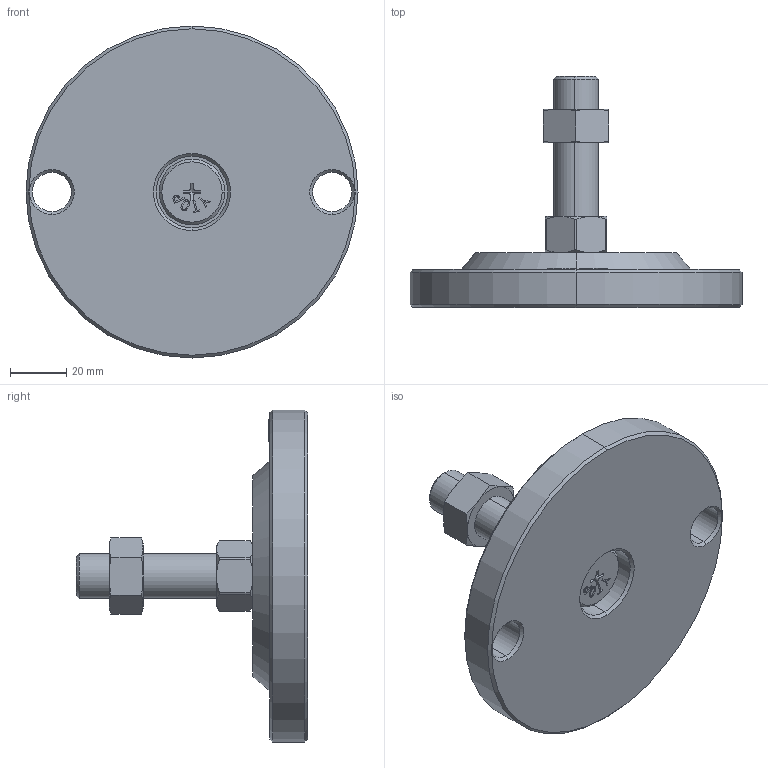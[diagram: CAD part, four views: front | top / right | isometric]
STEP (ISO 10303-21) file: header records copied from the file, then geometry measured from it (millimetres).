
FILE_DESCRIPTION (( 'STEP AP203' ), '1' );
FILE_NAME ('KL-120-1650-P.STEP', '2020-09-10T02:34:16', ( '' ), ( '' ), 'SwSTEP 2.0', 'SolidWorks 2016', '' );
FILE_SCHEMA (( 'CONFIG_CONTROL_DESIGN' ));
Length unit declared in the file: millimetre
Products named in the file (5): KL-120-0.1 KL120菁釱; KL-120-1650-P; 眻芛蹟邡M16炵蹈_M16X50; 螺丝平底十字带商标M10系列_M10X14; 脚垫调节六角螺母M16
Assembly tree (4 placements, depth 2):
  KL-120-1650-P
    KL-120-0.1 KL120菁釱
    眻芛蹟邡M16炵蹈_M16X50
    螺丝平底十字带商标M10系列_M10X14
    脚垫调节六角螺母M16
Bounding box: 118.5 x 82.5 x 118.5 mm (x, y, z)
Volume: 187432.6 mm3; surface area: 37201.1 mm2
Topology: 4 solids, 4 shells, 221 faces, 532 edges, 334 vertices
Faces by surface type: plane 101, cone 64, cylinder 32, bspline 24
Entity records: 8657 total; most frequent: CARTESIAN_POINT 3204, ORIENTED_EDGE 1056, DIRECTION 940, EDGE_CURVE 528, VERTEX_POINT 334, AXIS2_PLACEMENT_3D 326, VECTOR 288, LINE 288
